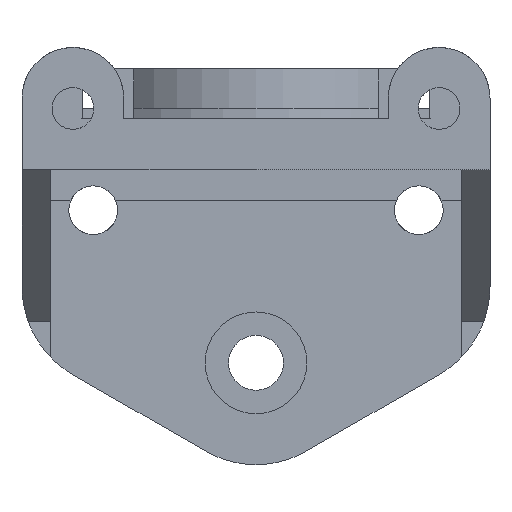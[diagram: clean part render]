
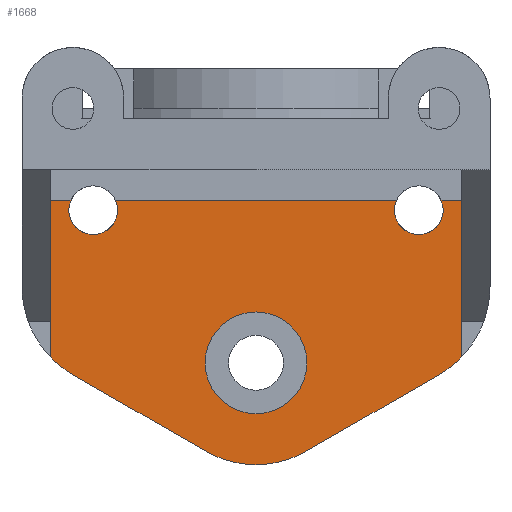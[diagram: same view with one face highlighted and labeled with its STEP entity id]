
A CAD part, front view. The second image highlights one B-rep face of the part: STEP entity #1668.
In plain terms, the highlighted planar face has unit normal (0, -1, 0).
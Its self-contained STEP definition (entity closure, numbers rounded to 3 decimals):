
#242 = VERTEX_POINT('',#243);
#243 = CARTESIAN_POINT('',(26.591,9.5,8.));
#249 = EDGE_CURVE('',#242,#250,#252,.T.);
#250 = VERTEX_POINT('',#251);
#251 = CARTESIAN_POINT('',(24.409,9.5,8.));
#252 = CIRCLE('',#253,1.2);
#253 = AXIS2_PLACEMENT_3D('',#254,#255,#256);
#254 = CARTESIAN_POINT('',(25.5,9.5,7.5));
#255 = DIRECTION('',(0.,1.,0.));
#256 = DIRECTION('',(0.,-0.,1.));
#390 = VERTEX_POINT('',#391);
#391 = CARTESIAN_POINT('',(10.591,9.5,8.));
#397 = EDGE_CURVE('',#390,#398,#400,.T.);
#398 = VERTEX_POINT('',#399);
#399 = CARTESIAN_POINT('',(8.409,9.5,8.));
#400 = CIRCLE('',#401,1.2);
#401 = AXIS2_PLACEMENT_3D('',#402,#403,#404);
#402 = CARTESIAN_POINT('',(9.5,9.5,7.5));
#403 = DIRECTION('',(0.,1.,0.));
#404 = DIRECTION('',(0.,-0.,1.));
#664 = EDGE_CURVE('',#665,#667,#669,.T.);
#665 = VERTEX_POINT('',#666);
#666 = CARTESIAN_POINT('',(27.346,9.5,0.034));
#667 = VERTEX_POINT('',#668);
#668 = CARTESIAN_POINT('',(27.6,9.5,0.289));
#669 = LINE('',#670,#671);
#670 = CARTESIAN_POINT('',(17.226,9.5,-10.086));
#671 = VECTOR('',#672,1.);
#672 = DIRECTION('',(0.707,0.,0.707));
#711 = EDGE_CURVE('',#712,#665,#714,.T.);
#712 = VERTEX_POINT('',#713);
#713 = CARTESIAN_POINT('',(26.939,9.5,-0.295));
#714 = LINE('',#715,#716);
#715 = CARTESIAN_POINT('',(16.098,9.5,-9.074));
#716 = VECTOR('',#717,1.);
#717 = DIRECTION('',(0.777,0.,0.629));
#742 = EDGE_CURVE('',#743,#712,#745,.T.);
#743 = VERTEX_POINT('',#744);
#744 = CARTESIAN_POINT('',(26.5,9.5,-0.58));
#745 = LINE('',#746,#747);
#746 = CARTESIAN_POINT('',(15.233,9.5,-7.897));
#747 = VECTOR('',#748,1.);
#748 = DIRECTION('',(0.839,0.,0.545));
#773 = EDGE_CURVE('',#774,#743,#776,.T.);
#774 = VERTEX_POINT('',#775);
#775 = CARTESIAN_POINT('',(20.,9.5,-4.33));
#776 = LINE('',#777,#778);
#777 = CARTESIAN_POINT('',(11.774,9.5,-9.076));
#778 = VECTOR('',#779,1.);
#779 = DIRECTION('',(0.866,0.,0.5));
#804 = EDGE_CURVE('',#805,#774,#807,.T.);
#805 = VERTEX_POINT('',#806);
#806 = CARTESIAN_POINT('',(19.534,9.5,-4.568));
#807 = LINE('',#808,#809);
#808 = CARTESIAN_POINT('',(11.495,9.5,-8.664));
#809 = VECTOR('',#810,1.);
#810 = DIRECTION('',(0.891,0.,0.454));
#835 = EDGE_CURVE('',#836,#805,#838,.T.);
#836 = VERTEX_POINT('',#837);
#837 = CARTESIAN_POINT('',(19.045,9.5,-4.755));
#838 = LINE('',#839,#840);
#839 = CARTESIAN_POINT('',(11.336,9.5,-7.714));
#840 = VECTOR('',#841,1.);
#841 = DIRECTION('',(0.934,0.,0.358));
#866 = EDGE_CURVE('',#867,#836,#869,.T.);
#867 = VERTEX_POINT('',#868);
#868 = CARTESIAN_POINT('',(18.54,9.5,-4.891));
#869 = LINE('',#870,#871);
#870 = CARTESIAN_POINT('',(11.392,9.5,-6.806));
#871 = VECTOR('',#872,1.);
#872 = DIRECTION('',(0.966,0.,0.259));
#897 = EDGE_CURVE('',#898,#867,#900,.T.);
#898 = VERTEX_POINT('',#899);
#899 = CARTESIAN_POINT('',(18.023,9.5,-4.973));
#900 = LINE('',#901,#902);
#901 = CARTESIAN_POINT('',(11.642,9.5,-5.983));
#902 = VECTOR('',#903,1.);
#903 = DIRECTION('',(0.988,0.,0.156));
#928 = EDGE_CURVE('',#929,#898,#931,.T.);
#929 = VERTEX_POINT('',#930);
#930 = CARTESIAN_POINT('',(17.5,9.5,-5.));
#931 = LINE('',#932,#933);
#932 = CARTESIAN_POINT('',(12.059,9.5,-5.285));
#933 = VECTOR('',#934,1.);
#934 = DIRECTION('',(0.999,0.,0.052));
#959 = EDGE_CURVE('',#960,#929,#962,.T.);
#960 = VERTEX_POINT('',#961);
#961 = CARTESIAN_POINT('',(16.977,9.5,-4.973));
#962 = LINE('',#963,#964);
#963 = CARTESIAN_POINT('',(12.608,9.5,-4.744));
#964 = VECTOR('',#965,1.);
#965 = DIRECTION('',(0.999,0.,-0.052));
#990 = EDGE_CURVE('',#991,#960,#993,.T.);
#991 = VERTEX_POINT('',#992);
#992 = CARTESIAN_POINT('',(16.46,9.5,-4.891));
#993 = LINE('',#994,#995);
#994 = CARTESIAN_POINT('',(13.247,9.5,-4.382));
#995 = VECTOR('',#996,1.);
#996 = DIRECTION('',(0.988,0.,-0.156));
#1021 = EDGE_CURVE('',#1022,#991,#1024,.T.);
#1022 = VERTEX_POINT('',#1023);
#1023 = CARTESIAN_POINT('',(15.955,9.5,-4.755));
#1024 = LINE('',#1025,#1026);
#1025 = CARTESIAN_POINT('',(13.932,9.5,-4.213));
#1026 = VECTOR('',#1027,1.);
#1027 = DIRECTION('',(0.966,0.,-0.259));
#1052 = EDGE_CURVE('',#1053,#1022,#1055,.T.);
#1053 = VERTEX_POINT('',#1054);
#1054 = CARTESIAN_POINT('',(15.466,9.5,-4.568));
#1055 = LINE('',#1056,#1057);
#1056 = CARTESIAN_POINT('',(14.616,9.5,-4.241));
#1057 = VECTOR('',#1058,1.);
#1058 = DIRECTION('',(0.934,0.,-0.358));
#1083 = EDGE_CURVE('',#1084,#1053,#1086,.T.);
#1084 = VERTEX_POINT('',#1085);
#1085 = CARTESIAN_POINT('',(15.,9.5,-4.33));
#1086 = LINE('',#1087,#1088);
#1087 = CARTESIAN_POINT('',(15.254,9.5,-4.459));
#1088 = VECTOR('',#1089,1.);
#1089 = DIRECTION('',(0.891,0.,-0.454));
#1114 = EDGE_CURVE('',#1115,#1084,#1117,.T.);
#1115 = VERTEX_POINT('',#1116);
#1116 = CARTESIAN_POINT('',(8.5,9.5,-0.58));
#1117 = LINE('',#1118,#1119);
#1118 = CARTESIAN_POINT('',(12.399,9.5,-2.829));
#1119 = VECTOR('',#1120,1.);
#1120 = DIRECTION('',(0.866,0.,-0.5));
#1145 = EDGE_CURVE('',#1146,#1115,#1148,.T.);
#1146 = VERTEX_POINT('',#1147);
#1147 = CARTESIAN_POINT('',(8.061,9.5,-0.295));
#1148 = LINE('',#1149,#1150);
#1149 = CARTESIAN_POINT('',(12.443,9.5,-3.141));
#1150 = VECTOR('',#1151,1.);
#1151 = DIRECTION('',(0.839,0.,-0.545));
#1402 = VERTEX_POINT('',#1403);
#1403 = CARTESIAN_POINT('',(7.4,9.5,0.289));
#1409 = EDGE_CURVE('',#1402,#1410,#1412,.T.);
#1410 = VERTEX_POINT('',#1411);
#1411 = CARTESIAN_POINT('',(7.4,9.5,8.));
#1412 = LINE('',#1413,#1414);
#1413 = CARTESIAN_POINT('',(7.4,9.5,-20.5));
#1414 = VECTOR('',#1415,1.);
#1415 = DIRECTION('',(0.,0.,1.));
#1457 = VERTEX_POINT('',#1458);
#1458 = CARTESIAN_POINT('',(7.654,9.5,0.034));
#1464 = EDGE_CURVE('',#1402,#1457,#1465,.T.);
#1465 = LINE('',#1466,#1467);
#1466 = CARTESIAN_POINT('',(12.539,9.5,-4.851));
#1467 = VECTOR('',#1468,1.);
#1468 = DIRECTION('',(0.707,0.,-0.707));
#1479 = EDGE_CURVE('',#1457,#1146,#1480,.T.);
#1480 = LINE('',#1481,#1482);
#1481 = CARTESIAN_POINT('',(12.599,9.5,-3.97));
#1482 = VECTOR('',#1483,1.);
#1483 = DIRECTION('',(0.777,0.,-0.629));
#1655 = EDGE_CURVE('',#1410,#398,#1656,.T.);
#1656 = LINE('',#1657,#1658);
#1657 = CARTESIAN_POINT('',(6.7,9.5,8.));
#1658 = VECTOR('',#1659,1.);
#1659 = DIRECTION('',(1.,0.,-0.));
#1668 = ADVANCED_FACE('',(#1669,#1713),#1724,.F.);
#1669 = FACE_BOUND('',#1670,.F.);
#1670 = EDGE_LOOP('',(#1671,#1679,#1680,#1681,#1682,#1683,#1684,#1685,
    #1686,#1687,#1688,#1689,#1690,#1691,#1692,#1693,#1694,#1695,#1696,
    #1697,#1698,#1699,#1700,#1706,#1707));
#1671 = ORIENTED_EDGE('',*,*,#1672,.F.);
#1672 = EDGE_CURVE('',#667,#1673,#1675,.T.);
#1673 = VERTEX_POINT('',#1674);
#1674 = CARTESIAN_POINT('',(27.6,9.5,8.));
#1675 = LINE('',#1676,#1677);
#1676 = CARTESIAN_POINT('',(27.6,9.5,-20.5));
#1677 = VECTOR('',#1678,1.);
#1678 = DIRECTION('',(0.,0.,1.));
#1679 = ORIENTED_EDGE('',*,*,#664,.F.);
#1680 = ORIENTED_EDGE('',*,*,#711,.F.);
#1681 = ORIENTED_EDGE('',*,*,#742,.F.);
#1682 = ORIENTED_EDGE('',*,*,#773,.F.);
#1683 = ORIENTED_EDGE('',*,*,#804,.F.);
#1684 = ORIENTED_EDGE('',*,*,#835,.F.);
#1685 = ORIENTED_EDGE('',*,*,#866,.F.);
#1686 = ORIENTED_EDGE('',*,*,#897,.F.);
#1687 = ORIENTED_EDGE('',*,*,#928,.F.);
#1688 = ORIENTED_EDGE('',*,*,#959,.F.);
#1689 = ORIENTED_EDGE('',*,*,#990,.F.);
#1690 = ORIENTED_EDGE('',*,*,#1021,.F.);
#1691 = ORIENTED_EDGE('',*,*,#1052,.F.);
#1692 = ORIENTED_EDGE('',*,*,#1083,.F.);
#1693 = ORIENTED_EDGE('',*,*,#1114,.F.);
#1694 = ORIENTED_EDGE('',*,*,#1145,.F.);
#1695 = ORIENTED_EDGE('',*,*,#1479,.F.);
#1696 = ORIENTED_EDGE('',*,*,#1464,.F.);
#1697 = ORIENTED_EDGE('',*,*,#1409,.T.);
#1698 = ORIENTED_EDGE('',*,*,#1655,.T.);
#1699 = ORIENTED_EDGE('',*,*,#397,.F.);
#1700 = ORIENTED_EDGE('',*,*,#1701,.T.);
#1701 = EDGE_CURVE('',#390,#250,#1702,.T.);
#1702 = LINE('',#1703,#1704);
#1703 = CARTESIAN_POINT('',(6.7,9.5,8.));
#1704 = VECTOR('',#1705,1.);
#1705 = DIRECTION('',(1.,0.,-0.));
#1706 = ORIENTED_EDGE('',*,*,#249,.F.);
#1707 = ORIENTED_EDGE('',*,*,#1708,.T.);
#1708 = EDGE_CURVE('',#242,#1673,#1709,.T.);
#1709 = LINE('',#1710,#1711);
#1710 = CARTESIAN_POINT('',(6.7,9.5,8.));
#1711 = VECTOR('',#1712,1.);
#1712 = DIRECTION('',(1.,0.,-0.));
#1713 = FACE_BOUND('',#1714,.F.);
#1714 = EDGE_LOOP('',(#1715));
#1715 = ORIENTED_EDGE('',*,*,#1716,.F.);
#1716 = EDGE_CURVE('',#1717,#1717,#1719,.T.);
#1717 = VERTEX_POINT('',#1718);
#1718 = CARTESIAN_POINT('',(17.5,9.5,2.5));
#1719 = CIRCLE('',#1720,2.5);
#1720 = AXIS2_PLACEMENT_3D('',#1721,#1722,#1723);
#1721 = CARTESIAN_POINT('',(17.5,9.5,0.));
#1722 = DIRECTION('',(0.,1.,0.));
#1723 = DIRECTION('',(0.,-0.,1.));
#1724 = PLANE('',#1725);
#1725 = AXIS2_PLACEMENT_3D('',#1726,#1727,#1728);
#1726 = CARTESIAN_POINT('',(7.4,9.5,-20.5));
#1727 = DIRECTION('',(-0.,1.,0.));
#1728 = DIRECTION('',(0.,0.,1.));
